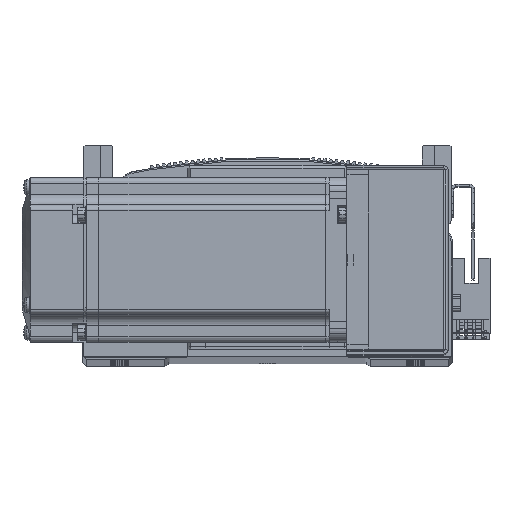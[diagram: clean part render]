
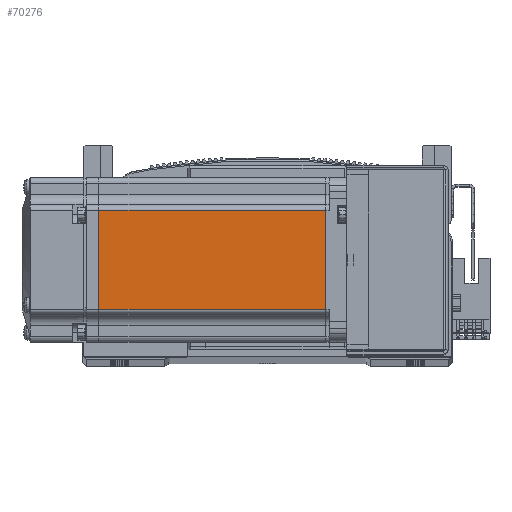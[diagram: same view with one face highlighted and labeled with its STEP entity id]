
A CAD part, top view. The second image highlights one B-rep face of the part: STEP entity #70276.
In plain terms, the highlighted planar face has unit normal (0, 0, 1) as drawn and (0, -1, 0) by its records, which use the part's own axes.
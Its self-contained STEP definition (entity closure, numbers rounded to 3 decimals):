
#79 = VECTOR ( 'NONE', #16942, 1000. ) ;
#112 = LINE ( 'NONE', #16847, #79 ) ;
#4078 = CARTESIAN_POINT ( 'NONE',  ( -90.45, -30., 0. ) ) ;
#4079 = DIRECTION ( 'NONE',  ( 0., 0., -1. ) ) ;
#4118 = CARTESIAN_POINT ( 'NONE',  ( -7.75, -30., 0. ) ) ;
#4148 = DIRECTION ( 'NONE',  ( 0., 0., -1. ) ) ;
#4151 = CARTESIAN_POINT ( 'NONE',  ( -6.5, -30., -18. ) ) ;
#4164 = DIRECTION ( 'NONE',  ( -1., 0., 0. ) ) ;
#6186 = LINE ( 'NONE', #4151, #6188 ) ;
#6188 = VECTOR ( 'NONE', #4164, 1000. ) ;
#6193 = VECTOR ( 'NONE', #4148, 1000. ) ;
#6228 = LINE ( 'NONE', #4078, #6229 ) ;
#6229 = VECTOR ( 'NONE', #4079, 1000. ) ;
#6230 = LINE ( 'NONE', #4118, #6193 ) ;
#16847 = CARTESIAN_POINT ( 'NONE',  ( -6.5, -30., 18. ) ) ;
#16942 = DIRECTION ( 'NONE',  ( -1., 0., 0. ) ) ;
#29996 = VERTEX_POINT ( 'NONE', #71830 ) ;
#30028 = VERTEX_POINT ( 'NONE', #71818 ) ;
#30088 = VERTEX_POINT ( 'NONE', #71899 ) ;
#30153 = VERTEX_POINT ( 'NONE', #71879 ) ;
#36699 = PLANE ( 'NONE',  #56234 ) ;
#36717 = CARTESIAN_POINT ( 'NONE',  ( -6.5, -30., -25. ) ) ;
#36747 = DIRECTION ( 'NONE',  ( 0., -1., 0. ) ) ;
#36759 = DIRECTION ( 'NONE',  ( 0., 0., -1. ) ) ;
#37209 = ORIENTED_EDGE ( 'NONE', *, *, #52717, .F. ) ;
#37244 = ORIENTED_EDGE ( 'NONE', *, *, #52735, .F. ) ;
#37326 = ORIENTED_EDGE ( 'NONE', *, *, #52814, .T. ) ;
#37337 = ORIENTED_EDGE ( 'NONE', *, *, #52697, .T. ) ;
#52697 = EDGE_CURVE ( 'NONE', #29996, #30028, #6228, .T. ) ;
#52717 = EDGE_CURVE ( 'NONE', #30088, #30153, #6230, .T. ) ;
#52735 = EDGE_CURVE ( 'NONE', #30153, #30028, #6186, .T. ) ;
#52814 = EDGE_CURVE ( 'NONE', #30088, #29996, #112, .T. ) ;
#56234 = AXIS2_PLACEMENT_3D ( 'NONE', #36717, #36747, #36759 ) ;
#60329 = FACE_OUTER_BOUND ( 'NONE', #64539, .T. ) ;
#64539 = EDGE_LOOP ( 'NONE', ( #37209, #37326, #37337, #37244 ) ) ;
#70276 = ADVANCED_FACE ( 'NONE', ( #60329 ), #36699, .T. ) ;
#71818 = CARTESIAN_POINT ( 'NONE',  ( -90.45, -30., -18. ) ) ;
#71830 = CARTESIAN_POINT ( 'NONE',  ( -90.45, -30., 18. ) ) ;
#71879 = CARTESIAN_POINT ( 'NONE',  ( -7.75, -30., -18. ) ) ;
#71899 = CARTESIAN_POINT ( 'NONE',  ( -7.75, -30., 18. ) ) ;
